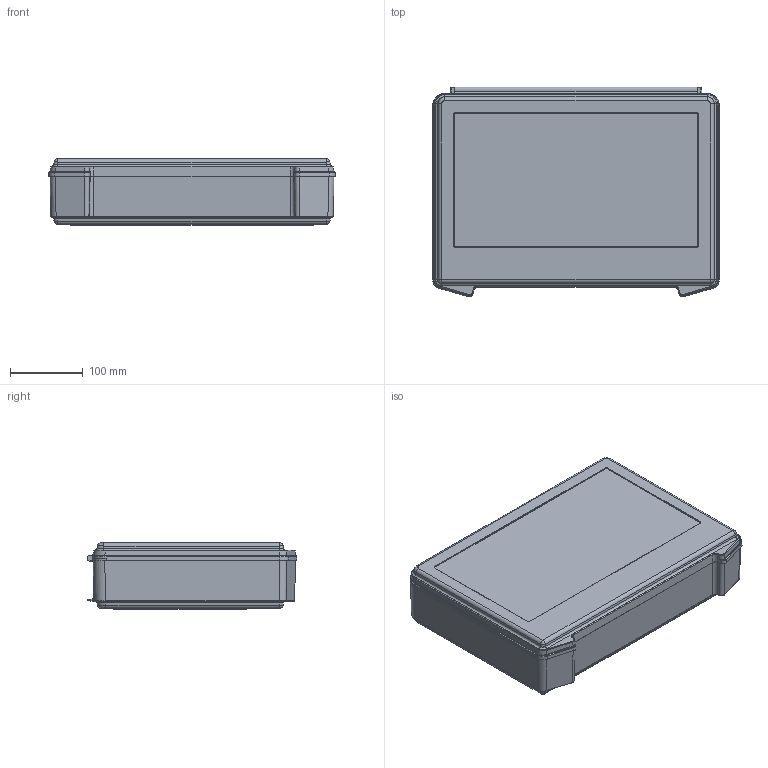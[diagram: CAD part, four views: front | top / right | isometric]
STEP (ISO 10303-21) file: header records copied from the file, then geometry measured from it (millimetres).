
FILE_DESCRIPTION(/* description */ (''),/* implementation_level */ '2;1');
FILE_NAME(/* name */ 'T51_Case_OT-UT.stp',/* time_stamp */ '2014-10-06T09:34:18+02:00',/* author */ (''),/* organization */ (''),/* preprocessor_version */ 'ST-DEVELOPER v15',/* originating_system */ 'SIEMENS PLM Software NX 8.5',/* authorisation */ '');
FILE_SCHEMA (('AUTOMOTIVE_DESIGN { 1 0 10303 214 3 1 1 1 }'));
Length unit declared in the file: millimetre
Products named in the file (1): pk1A9099730guv
Bounding box: 394 x 288.37 x 91 mm (x, y, z)
Volume: 927392.6 mm3; surface area: 647562.2 mm2
Topology: 2 solids, 2 shells, 501 faces, 1216 edges, 710 vertices
Faces by surface type: cylinder 196, plane 153, bspline 132, sphere 10, torus 8, cone 2
Entity records: 16403 total; most frequent: CARTESIAN_POINT 5445, ORIENTED_EDGE 2406, DIRECTION 2185, EDGE_CURVE 1203, AXIS2_PLACEMENT_3D 798, VERTEX_POINT 714, LINE 589, VECTOR 589
